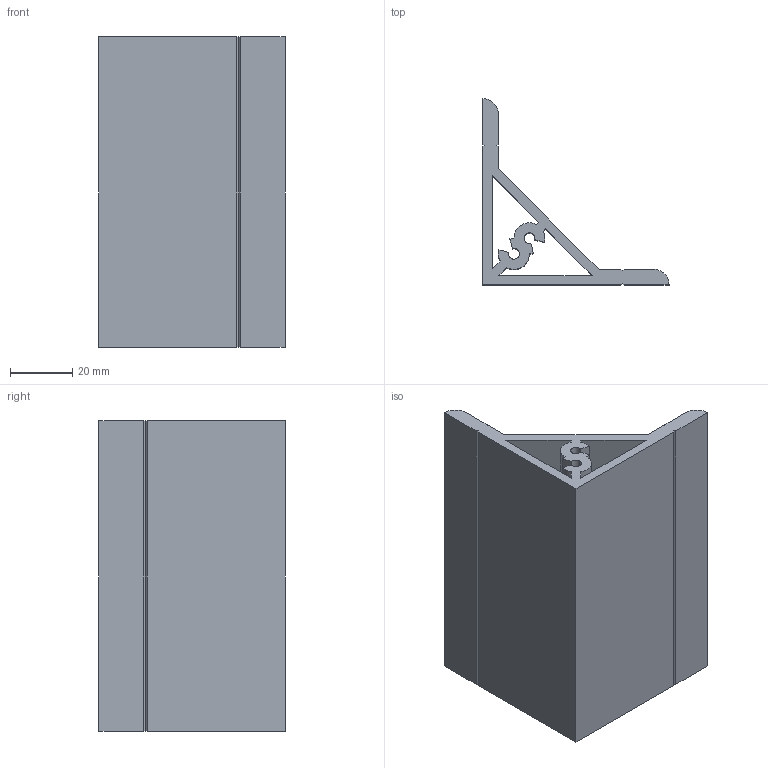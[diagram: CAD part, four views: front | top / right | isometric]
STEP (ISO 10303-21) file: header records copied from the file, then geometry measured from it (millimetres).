
FILE_DESCRIPTION (( 'STEP AP203' ), '1' );
FILE_NAME ('WL6060.STEP', '2024-02-19T12:07:41', ( '' ), ( '' ), 'SwSTEP 2.0', 'SolidWorks 2022', '' );
FILE_SCHEMA (( 'CONFIG_CONTROL_DESIGN' ));
Length unit declared in the file: millimetre
Products named in the file (1): WL6060
Bounding box: 60 x 60 x 100 mm (x, y, z)
Volume: 68696.8 mm3; surface area: 40592.7 mm2
Topology: 1 solids, 1 shells, 46 faces, 132 edges, 88 vertices
Faces by surface type: plane 31, cylinder 15
Entity records: 1591 total; most frequent: CARTESIAN_POINT 267, ORIENTED_EDGE 264, DIRECTION 256, EDGE_CURVE 132, VECTOR 102, LINE 102, VERTEX_POINT 88, AXIS2_PLACEMENT_3D 77
